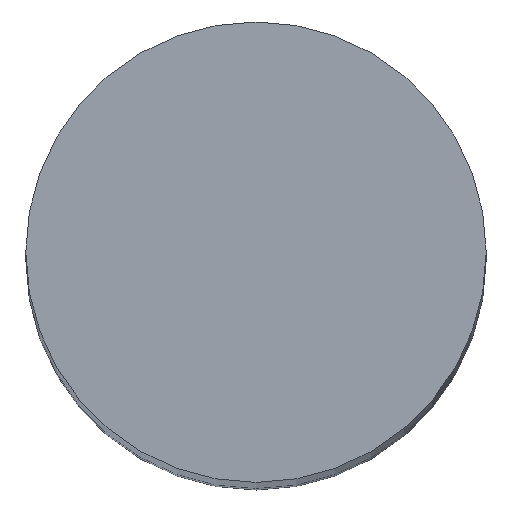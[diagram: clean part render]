
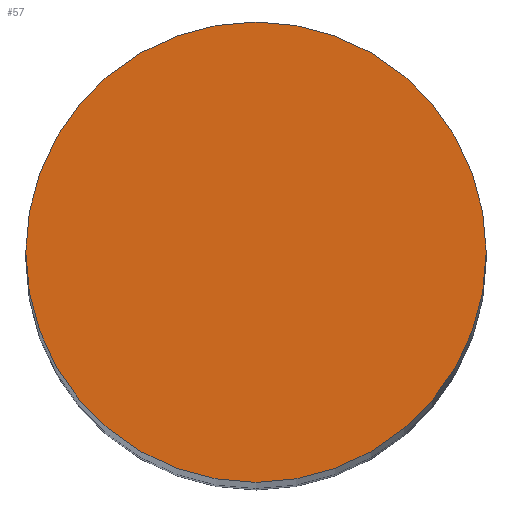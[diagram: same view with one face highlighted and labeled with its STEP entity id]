
A CAD part, top view. The second image highlights one B-rep face of the part: STEP entity #57.
In plain terms, the highlighted planar face has unit normal (0, 0, 1).
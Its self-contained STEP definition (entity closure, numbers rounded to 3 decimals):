
#57=ADVANCED_FACE('',(#110),#111,.T.);
#110=FACE_OUTER_BOUND('',#156,.T.);
#111=PLANE('',#157);
#156=EDGE_LOOP('',(#243,#244));
#157=AXIS2_PLACEMENT_3D('',#245,#246,#247);
#243=ORIENTED_EDGE('',*,*,#288,.T.);
#244=ORIENTED_EDGE('',*,*,#259,.T.);
#245=CARTESIAN_POINT('',(0.0,0.0,0.0));
#246=DIRECTION('',(0.0,0.0,1.0));
#247=DIRECTION('',(1.0,0.0,0.0));
#259=EDGE_CURVE('',#296,#293,#297,.T.);
#288=EDGE_CURVE('',#293,#296,#337,.T.);
#293=VERTEX_POINT('',#342);
#296=VERTEX_POINT('',#346);
#297=CIRCLE('',#347,3.0);
#337=CIRCLE('',#394,3.0);
#342=CARTESIAN_POINT('',(-3.0,0.0,0.0));
#346=CARTESIAN_POINT('',(3.0,0.,0.0));
#347=AXIS2_PLACEMENT_3D('',#399,#400,#401);
#394=AXIS2_PLACEMENT_3D('',#445,#446,#447);
#399=CARTESIAN_POINT('',(0.0,0.0,0.0));
#400=DIRECTION('',(0.0,0.0,1.0));
#401=DIRECTION('',(-1.0,0.0,0.0));
#445=CARTESIAN_POINT('',(0.0,0.0,0.0));
#446=DIRECTION('',(0.0,0.0,1.0));
#447=DIRECTION('',(-1.0,0.0,0.0));
